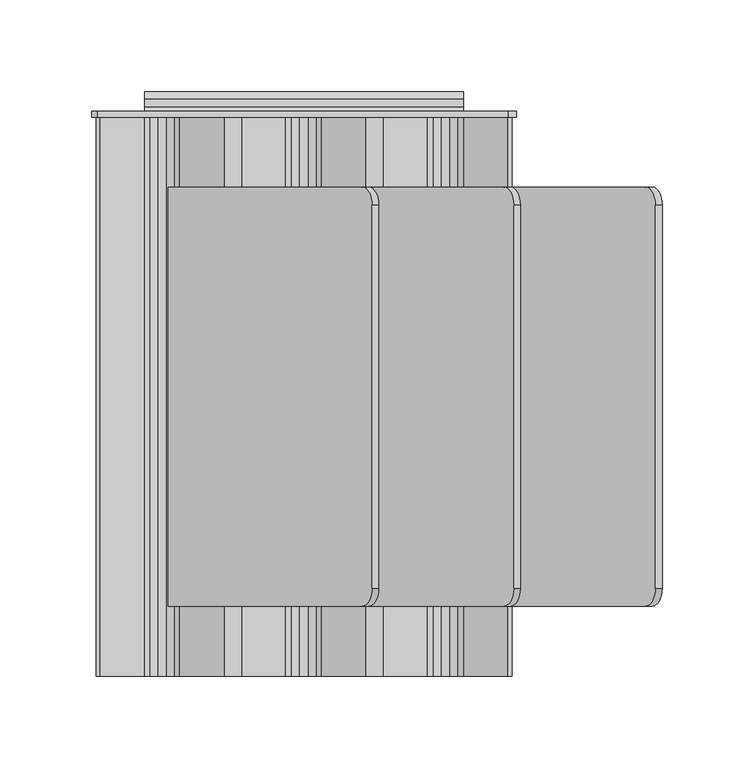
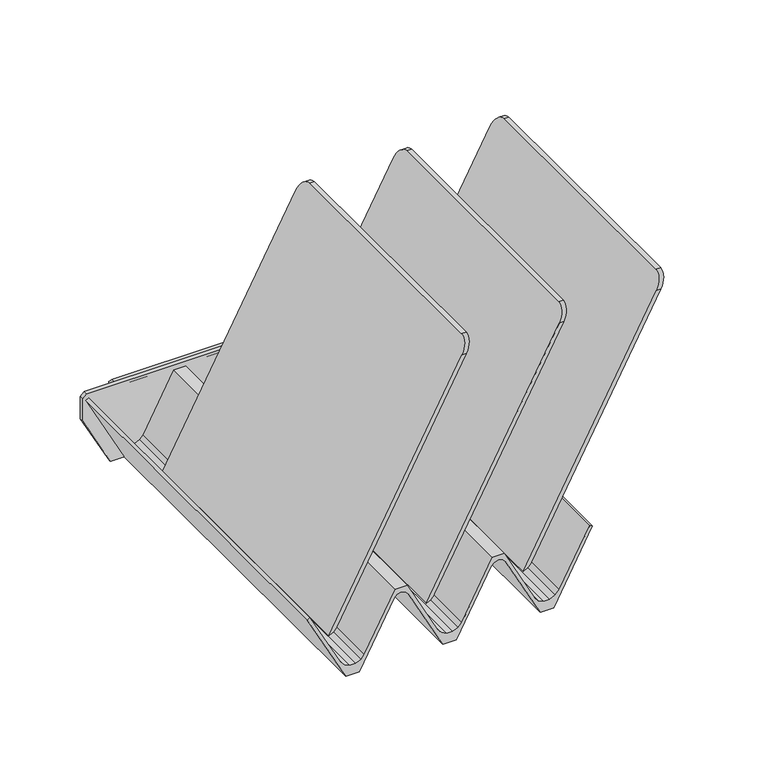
"""IFC4 building model written with IfcOpenShell, lengths in millimetres: furniture geometry."""

from ifc_helpers import new_model, si_unit, point, frame, frame_2d, origin, place, context, project, spatial, polyline, circle_curve, ellipse_curve, trimmed, segment, composite_curve, outline, extrude, source, transform, mapped, element, save
from ifc_brep_helpers import plane_surface, cylinder_surface, advanced_brep


def furniture_04455b23(model_context):
    return source(origin(), model_context, "Body", "SolidModel", [
        advanced_brep(
        [(-78.5076305, -115.8875182, 946.15), (-74.9117341, -115.8875182, 946.15), (35.3237269, -115.8875182, 1153.4727434), (31.7278836, -115.8875182, 1153.4727434), (-74.9117341, 112.7124864, 946.15), (-78.5076305, 112.7124864, 946.15), (31.7278836, 112.7124864, 1153.4727434), (35.3237269, 112.7124864, 1153.4727434), (40.728424, 102.8883555, 1163.6375), (40.728424, -105.9830355, 1163.6375), (37.1325833, 102.8883555, 1163.6375), (37.1325833, -105.9830355, 1163.6375)],
        [
            (0, 1),
            (1, 2),
            (2, 3),
            (3, 0),
            (4, 5),
            (5, 6),
            (6, 7),
            (7, 4),
            (0, 5),
            (4, 1),
            (7, 8, ellipse_curve(frame((35.3237269, 102.5418246, 1153.4727434), z_axis=(0.8829475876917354, 0.0, -0.46947157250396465), x_axis=(-0.46947157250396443, 0.0, -0.8829475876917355)), 11.518987, 10.1706618)),
            (8, 9),
            (9, 2, ellipse_curve(frame((35.3237269, -105.7193418, 1153.4727434), z_axis=(0.8829475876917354, 0.0, -0.46947157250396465), x_axis=(-0.46947157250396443, 0.0, -0.8829475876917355)), 11.5161721, 10.1681764)),
            (8, 10),
            (10, 11),
            (11, 9),
            (3, 11, ellipse_curve(frame((31.7278836, -105.7193418, 1153.4727434), z_axis=(-0.8829474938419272, 0.0, 0.4694717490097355), x_axis=(-0.4694717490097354, 0.0, -0.8829474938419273)), 11.5161734, 10.1681764)),
            (10, 6, ellipse_curve(frame((31.7278836, 102.5418246, 1153.4727434), z_axis=(-0.8829474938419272, 0.0, 0.4694717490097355), x_axis=(-0.4694717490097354, 0.0, -0.8829474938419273)), 11.5189882, 10.1706618)),
        ],
        [
            plane_surface(frame((-78.5076305, -115.8875182, 946.15), z_axis=(0.0, -1.0, 0.0), x_axis=(1.0, 0.0, 0.0))),
            plane_surface(frame((-78.5076305, 112.7124864, 946.15), z_axis=(0.0, 1.0, 0.0), x_axis=(-1.0, 0.0, 0.0))),
            plane_surface(frame((-78.5076305, -115.8875182, 946.15), z_axis=(0.0, 0.0, -1.0), x_axis=(0.0, 1.0, 0.0))),
            plane_surface(frame((-74.9117341, -115.8875182, 946.15), z_axis=(0.8829475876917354, 0.0, -0.46947157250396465), x_axis=(0.0, 1.0, 0.0))),
            plane_surface(frame((40.728424, -115.8875182, 1163.6375), z_axis=(0.0, 0.0, 1.0), x_axis=(0.0, 1.0, 0.0))),
            plane_surface(frame((37.1325833, -115.8875182, 1163.6375), z_axis=(-0.8829474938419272, 0.0, 0.4694717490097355), x_axis=(0.0, 1.0, 0.0))),
            cylinder_surface(frame((0.0, 102.5418246, 1153.4727434), z_axis=(-1.0, 0.0, 0.0), x_axis=(0.0, 1.0, 0.0)), 10.1706618),
            cylinder_surface(frame((0.0, -105.7193418, 1153.4727434), z_axis=(-1.0, 0.0, 0.0), x_axis=(0.0, 1.0, 0.0)), 10.1681764),
        ],
        [
            (0, [[1, 2, 3, 4]]),
            (1, [[5, 6, 7, 8]]),
            (2, [[-1, 9, -5, 10]]),
            (3, [[-10, -8, 11, 12, 13, -2]]),
            (4, [[-12, 14, 15, 16]]),
            (5, [[-9, -4, 17, -15, 18, -6]]),
            (6, [[-7, -18, -14, -11]]),
            (7, [[-3, -13, -16, -17]]),
        ],
    ),
        advanced_brep(
        [(-0.9107932, -115.8875182, 946.15), (2.3550823, -115.8875182, 946.15), (112.5905464, -115.8875182, 1153.4727434), (109.0097063, -115.8875182, 1153.4727434), (2.3550823, 112.7124864, 946.15), (-0.9107932, 112.7124864, 946.15), (109.0097063, 112.7124864, 1153.4727434), (112.5905464, 112.7124864, 1153.4727434), (117.9952436, 102.8883555, 1163.6375), (117.9952436, -105.9830355, 1163.6375), (114.3989613, 102.8883555, 1163.6375), (114.3989613, -105.9830355, 1163.6375)],
        [
            (0, 1),
            (1, 2),
            (2, 3),
            (3, 0),
            (4, 5),
            (5, 6),
            (6, 7),
            (7, 4),
            (0, 5),
            (4, 1),
            (7, 8, ellipse_curve(frame((112.5905464, 102.5418246, 1153.4727434), z_axis=(0.882947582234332, 0.0, -0.46947158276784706), x_axis=(-0.46947158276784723, 0.0, -0.882947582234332)), 11.518987, 10.1706618)),
            (8, 9),
            (9, 2, ellipse_curve(frame((112.5905464, -105.7193418, 1153.4727434), z_axis=(0.882947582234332, 0.0, -0.46947158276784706), x_axis=(-0.46947158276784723, 0.0, -0.882947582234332)), 11.5161722, 10.1681764)),
            (8, 10),
            (10, 11),
            (11, 9),
            (3, 11, ellipse_curve(frame((109.0097063, -105.7193418, 1153.4727434), z_axis=(-0.88350333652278, 0.0, 0.46842486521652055), x_axis=(-0.46842486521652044, 0.0, -0.88350333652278)), 11.5089281, 10.1681764)),
            (10, 6, ellipse_curve(frame((109.0097063, 102.5418246, 1153.4727434), z_axis=(-0.88350333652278, 0.0, 0.46842486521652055), x_axis=(-0.46842486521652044, 0.0, -0.88350333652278)), 11.5117412, 10.1706618)),
        ],
        [
            plane_surface(frame((-78.5076305, -115.8875182, 946.15), z_axis=(0.0, -1.0, 0.0), x_axis=(1.0, 0.0, 0.0))),
            plane_surface(frame((-78.5076305, 112.7124864, 946.15), z_axis=(0.0, 1.0, 0.0), x_axis=(-1.0, 0.0, 0.0))),
            plane_surface(frame((-0.9107932, -115.8875182, 946.15), z_axis=(0.0, 0.0, -1.0), x_axis=(0.0, 1.0, 0.0))),
            plane_surface(frame((2.3550823, -115.8875182, 946.15), z_axis=(0.882947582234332, 0.0, -0.46947158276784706), x_axis=(0.0, 1.0, 0.0))),
            plane_surface(frame((117.9952436, -115.8875182, 1163.6375), z_axis=(0.0, 0.0, 1.0), x_axis=(0.0, 1.0, 0.0))),
            plane_surface(frame((114.3989613, -115.8875182, 1163.6375), z_axis=(-0.88350333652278, 0.0, 0.46842486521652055), x_axis=(0.0, 1.0, 0.0))),
            cylinder_surface(frame((0.0, 102.5418246, 1153.4727434), z_axis=(-1.0, 0.0, 0.0), x_axis=(0.0, 1.0, 0.0)), 10.1706618),
            cylinder_surface(frame((0.0, -105.7193418, 1153.4727434), z_axis=(-1.0, 0.0, 0.0), x_axis=(0.0, 1.0, 0.0)), 10.1681764),
        ],
        [
            (0, [[1, 2, 3, 4]]),
            (1, [[5, 6, 7, 8]]),
            (2, [[-1, 9, -5, 10]]),
            (3, [[-10, -8, 11, 12, 13, -2]]),
            (4, [[-12, 14, 15, 16]]),
            (5, [[-9, -4, 17, -15, 18, -6]]),
            (6, [[-7, -18, -14, -11]]),
            (7, [[-3, -13, -16, -17]]),
        ],
    ),
        advanced_brep(
        [(76.0259689, -115.8875182, 946.15), (79.7811739, -115.8875182, 946.15), (190.0166176, -115.8875182, 1153.4727434), (186.2614289, -115.8875182, 1153.4727434), (79.7811739, 112.7124864, 946.15), (76.0259689, 112.7124864, 946.15), (186.2614289, 112.7124864, 1153.4727434), (190.0166176, 112.7124864, 1153.4727434), (195.4213139, 102.8883555, 1163.6375), (195.4213139, -105.9830355, 1163.6375), (191.666126, 102.8883555, 1163.6375), (191.666126, -105.9830355, 1163.6375)],
        [
            (0, 1),
            (1, 2),
            (2, 3),
            (3, 0),
            (4, 5),
            (5, 6),
            (6, 7),
            (7, 4),
            (0, 5),
            (4, 1),
            (7, 8, ellipse_curve(frame((190.0166176, 102.5418246, 1153.4727434), z_axis=(0.8829476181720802, 0.0, -0.46947151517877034), x_axis=(-0.46947151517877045, 0.0, -0.88294761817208)), 11.5189866, 10.1706618)),
            (8, 9),
            (9, 2, ellipse_curve(frame((190.0166176, -105.7193418, 1153.4727434), z_axis=(0.8829476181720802, 0.0, -0.46947151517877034), x_axis=(-0.46947151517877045, 0.0, -0.88294761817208)), 11.5161717, 10.1681764)),
            (8, 10),
            (10, 11),
            (11, 9),
            (3, 11, ellipse_curve(frame((186.2614289, -105.7193418, 1153.4727434), z_axis=(-0.882947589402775, 0.0, 0.4694715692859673), x_axis=(-0.4694715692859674, 0.0, -0.882947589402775)), 11.5161721, 10.1681764)),
            (10, 6, ellipse_curve(frame((186.2614289, 102.5418246, 1153.4727434), z_axis=(-0.882947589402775, 0.0, 0.4694715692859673), x_axis=(-0.4694715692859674, 0.0, -0.882947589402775)), 11.5189869, 10.1706618)),
        ],
        [
            plane_surface(frame((-78.5076305, -115.8875182, 946.15), z_axis=(0.0, -1.0, 0.0), x_axis=(1.0, 0.0, 0.0))),
            plane_surface(frame((-78.5076305, 112.7124864, 946.15), z_axis=(0.0, 1.0, 0.0), x_axis=(-1.0, 0.0, 0.0))),
            plane_surface(frame((76.0259689, -115.8875182, 946.15), z_axis=(0.0, 0.0, -1.0), x_axis=(0.0, 1.0, 0.0))),
            plane_surface(frame((79.7811739, -115.8875182, 946.15), z_axis=(0.8829476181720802, 0.0, -0.46947151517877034), x_axis=(0.0, 1.0, 0.0))),
            plane_surface(frame((195.4213139, -115.8875182, 1163.6375), z_axis=(0.0, 0.0, 1.0), x_axis=(0.0, 1.0, 0.0))),
            plane_surface(frame((191.666126, -115.8875182, 1163.6375), z_axis=(-0.882947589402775, 0.0, 0.4694715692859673), x_axis=(0.0, 1.0, 0.0))),
            cylinder_surface(frame((0.0, 102.5418246, 1153.4727434), z_axis=(-1.0, 0.0, 0.0), x_axis=(0.0, 1.0, 0.0)), 10.1706618),
            cylinder_surface(frame((0.0, -105.7193418, 1153.4727434), z_axis=(-1.0, 0.0, 0.0), x_axis=(0.0, 1.0, 0.0)), 10.1681764),
        ],
        [
            (0, [[1, 2, 3, 4]]),
            (1, [[5, 6, 7, 8]]),
            (2, [[-1, 9, -5, 10]]),
            (3, [[-10, -8, 11, 12, 13, -2]]),
            (4, [[-12, 14, 15, 16]]),
            (5, [[-9, -4, 17, -15, 18, -6]]),
            (6, [[-7, -18, -14, -11]]),
            (7, [[-3, -13, -16, -17]]),
        ],
    ),
        extrude(outline(polyline([(1004.3365504, -113.3404132), (946.15, -82.6180755), (946.15, -71.8286766), (998.6740623, -44.096121), (1000.9406431, -41.9545616), (1001.8523762, -38.676187), (1000.9406431, -35.3978079), (998.4672571, -33.0608503), (946.15, -5.4374818), (946.15, 5.4381185), (998.6740614, 33.170679), (1000.9406431, 35.3122394), (1001.8523762, 38.5906094), (1000.9406431, 41.8689885), (998.4114359, 44.2586883), (946.15, 71.9155202), (946.15, 82.7049229), (1004.336546, 113.4272483), (1005.4528432, 111.3130508), (960.0055096, 87.1482781), (956.3501541, 84.0519156), (954.3357104, 79.7054876), (954.3357104, 74.9149551), (956.3501541, 70.5685271), (960.1105361, 67.3831993), (1005.5224984, 43.2968127), (1005.5224984, 33.9240014), (959.5004275, 9.4536309), (956.3501541, 6.7851111), (954.3357104, 2.4386922), (954.3357104, -2.3518493), (956.7854746, -6.6982682), (960.3449621, -9.9738698), (1005.5224984, -33.8274808), (1005.5224984, -43.3428158), (959.5003747, -67.8132137), (956.3501541, -70.4816887), (954.3357104, -74.8281031), (954.3357104, -79.6186492), (956.3501541, -83.9650636), (960.0055262, -87.0614424), (1005.522503, -111.0942793), (1004.3365504, -113.3404132)])), frame((0.0, -153.9875, 0.0), z_axis=(0.0, 1.0, 0.0), x_axis=(0.0, 0.0, 1.0)), (0.0, 0.0, 1.0), 304.7999878),
        extrude(outline(polyline([(1006.4749994, -115.844077), (987.8399607, -115.844077), (946.15, -93.8318941), (946.15, 93.918737), (987.8399607, 115.930929), (1006.4749984, 115.930929), (1009.6499985, 111.5932577), (1009.6499985, -112.669078), (1006.4749994, -115.844077)])), frame((0.0, 150.8124878, 0.0), z_axis=(0.0, 1.0, 0.0), x_axis=(0.0, 0.0, 1.0)), (0.0, 0.0, 1.0), 3.1750122),
        extrude(outline(composite_curve([segment(polyline([(164.6784774, 1002.6612114), (164.6784774, 1000.0834605)]), True, "CONTINUOUS"), segment(trimmed(circle_curve(frame_2d((162.7734784, 1000.0834605)), 1.904999), [point((164.6784774, 1000.0834605))], [point((160.8684793, 1000.0834605))], False, "CARTESIAN"), True, "CONTINUOUS"), segment(polyline([(160.8684793, 1000.0834605), (160.8684793, 1002.6612114), (156.5435882, 1002.6612114), (153.9875, 1000.1051232), (153.9875, 1009.6499985), (156.5435882, 1006.4712113), (160.8684775, 1006.4712113), (164.6784774, 1002.6612114)]), True, "CONTINUOUS")], self_intersect=False)), frame((-87.0345642, 0.0, 0.0), z_axis=(1.0, 0.0, 0.0), x_axis=(0.0, 1.0, 0.0)), (0.0, 0.0, 1.0), 174.0691284),
    ])


if __name__ == "__main__":
    model = new_model("IFC4")
    model_context = context("Model", 3, world=origin())
    ifc_project = project(units=[si_unit("LENGTHUNIT", "METRE", prefix="MILLI")], contexts=[model_context])
    site = spatial("IfcSite", under=ifc_project)
    building = spatial("IfcBuilding", under=site)
    placement = place(None, origin())
    furniture_shape = furniture_04455b23(model_context)
    element("IfcFurniture", 1, ObjectType="HermanMiller_ThrivePortfolio_Y7218_DiagonalTray : 8 1/2\"H x 12\"D x 13\"W", at=placement, inside=building, context=model_context, shape_type="MappedRepresentation", body=[
        mapped(furniture_shape, transform((0.0, 0.0, 0.0), x_axis=(1.0, 0.0, 0.0), y_axis=(0.0, 1.0, 0.0), z_axis=(0.0, 0.0, 1.0))),
    ])
    save(model, "model.ifc")
